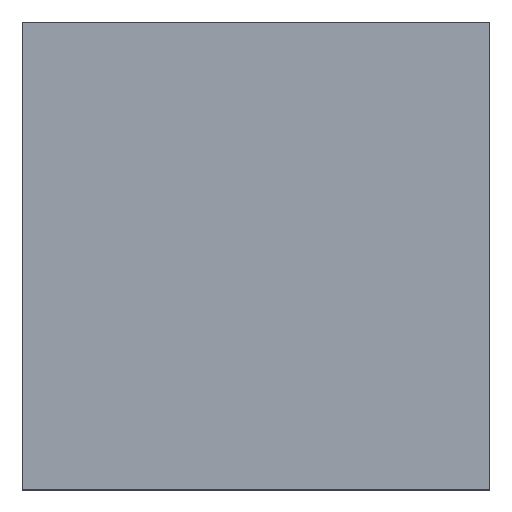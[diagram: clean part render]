
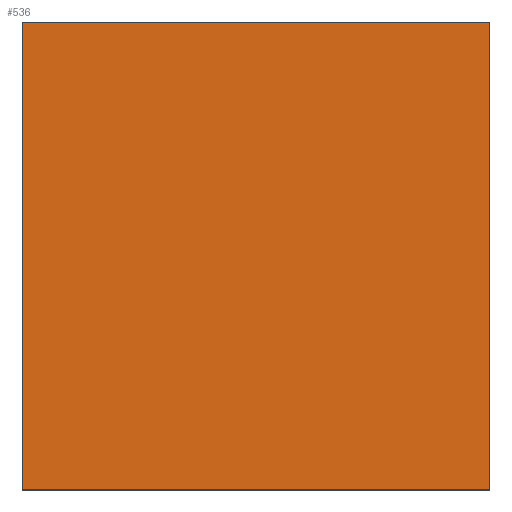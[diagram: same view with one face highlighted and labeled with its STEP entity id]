
A CAD part, top view. The second image highlights one B-rep face of the part: STEP entity #536.
In plain terms, the highlighted planar face has unit normal (0, 0, 1).
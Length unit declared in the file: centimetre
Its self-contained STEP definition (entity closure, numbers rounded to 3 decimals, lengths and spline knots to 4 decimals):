
#28 = CARTESIAN_POINT ( 'NONE',  ( 0., 0., 1000. ) ) ;
#41 = DIRECTION ( 'NONE',  ( 0., 1., 0. ) ) ;
#47 = VERTEX_POINT ( 'NONE', #565 ) ;
#62 = ORIENTED_EDGE ( 'NONE', *, *, #150, .T. ) ;
#80 = DIRECTION ( 'NONE',  ( 1., 0., 0. ) ) ;
#150 = EDGE_CURVE ( 'NONE', #561, #774, #747, .T. ) ;
#164 = LINE ( 'NONE', #719, #649 ) ;
#166 = LINE ( 'NONE', #603, #261 ) ;
#185 = VECTOR ( 'NONE', #375, 100. ) ;
#214 = VERTEX_POINT ( 'NONE', #763 ) ;
#241 = ORIENTED_EDGE ( 'NONE', *, *, #795, .T. ) ;
#261 = VECTOR ( 'NONE', #41, 100. ) ;
#304 = EDGE_CURVE ( 'NONE', #47, #214, #166, .T. ) ;
#327 = ORIENTED_EDGE ( 'NONE', *, *, #304, .T. ) ;
#353 = VECTOR ( 'NONE', #405, 100. ) ;
#369 = AXIS2_PLACEMENT_3D ( 'NONE', #518, #390, #80 ) ;
#375 = DIRECTION ( 'NONE',  ( 0., -1., 0. ) ) ;
#385 = PLANE ( 'NONE',  #369 ) ;
#390 = DIRECTION ( 'NONE',  ( 0., 0., 1. ) ) ;
#405 = DIRECTION ( 'NONE',  ( -1., 0., 0. ) ) ;
#518 = CARTESIAN_POINT ( 'NONE',  ( 0., 0., 1000. ) ) ;
#531 = CARTESIAN_POINT ( 'NONE',  ( 0., 1000., 1000. ) ) ;
#534 = LINE ( 'NONE', #531, #353 ) ;
#536 = ADVANCED_FACE ( 'NONE', ( #740 ), #385, .T. ) ;
#546 = DIRECTION ( 'NONE',  ( 1., 0., 0. ) ) ;
#561 = VERTEX_POINT ( 'NONE', #646 ) ;
#565 = CARTESIAN_POINT ( 'NONE',  ( 1000., 0., 1000. ) ) ;
#577 = CARTESIAN_POINT ( 'NONE',  ( 0., 1000., 1000. ) ) ;
#603 = CARTESIAN_POINT ( 'NONE',  ( 1000., 1000., 1000. ) ) ;
#646 = CARTESIAN_POINT ( 'NONE',  ( 0., 1000., 1000. ) ) ;
#649 = VECTOR ( 'NONE', #546, 100. ) ;
#670 = EDGE_LOOP ( 'NONE', ( #62, #683, #327, #241 ) ) ;
#683 = ORIENTED_EDGE ( 'NONE', *, *, #779, .T. ) ;
#719 = CARTESIAN_POINT ( 'NONE',  ( 0., 0., 1000. ) ) ;
#740 = FACE_OUTER_BOUND ( 'NONE', #670, .T. ) ;
#747 = LINE ( 'NONE', #577, #185 ) ;
#763 = CARTESIAN_POINT ( 'NONE',  ( 1000., 1000., 1000. ) ) ;
#774 = VERTEX_POINT ( 'NONE', #28 ) ;
#779 = EDGE_CURVE ( 'NONE', #774, #47, #164, .T. ) ;
#795 = EDGE_CURVE ( 'NONE', #214, #561, #534, .T. ) ;
